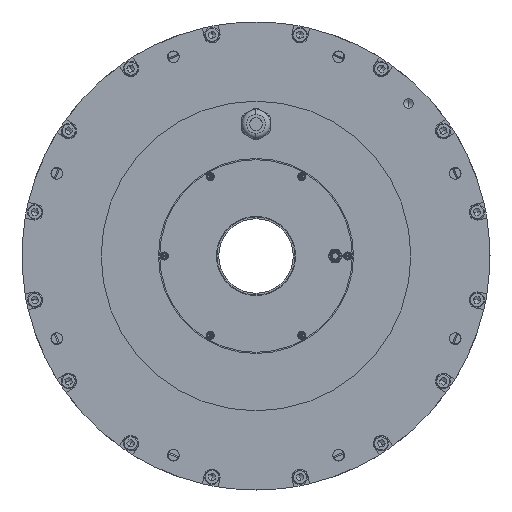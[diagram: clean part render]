
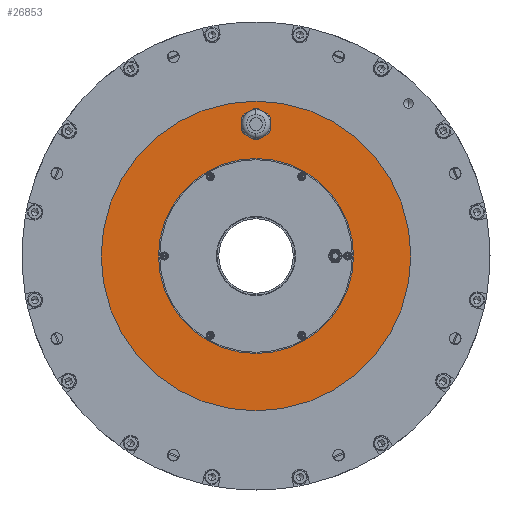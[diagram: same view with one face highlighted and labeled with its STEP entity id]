
A CAD part, front view. The second image highlights one B-rep face of the part: STEP entity #26853.
In plain terms, the highlighted planar face has unit normal (0, -1, 0).
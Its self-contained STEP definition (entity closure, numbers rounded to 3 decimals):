
#691 = CIRCLE ( 'NONE', #28960, 85. ) ;
#946 = ORIENTED_EDGE ( 'NONE', *, *, #10279, .T. ) ;
#2081 = DIRECTION ( 'NONE',  ( 0., 1., 0. ) ) ;
#2303 = DIRECTION ( 'NONE',  ( 0., 0., -1. ) ) ;
#2926 = DIRECTION ( 'NONE',  ( 0., -1., 0. ) ) ;
#3661 = CARTESIAN_POINT ( 'NONE',  ( 0., -4., 0. ) ) ;
#4100 = AXIS2_PLACEMENT_3D ( 'NONE', #7564, #16239, #17137 ) ;
#4314 = EDGE_CURVE ( 'NONE', #6994, #19963, #691, .T. ) ;
#4351 = PLANE ( 'NONE',  #24148 ) ;
#4665 = DIRECTION ( 'NONE',  ( 0., -1., 0. ) ) ;
#4954 = CIRCLE ( 'NONE', #18806, 135. ) ;
#6728 = CARTESIAN_POINT ( 'NONE',  ( 0., -4., 115. ) ) ;
#6994 = VERTEX_POINT ( 'NONE', #51057 ) ;
#7564 = CARTESIAN_POINT ( 'NONE',  ( 0., -4., 0. ) ) ;
#8101 = CIRCLE ( 'NONE', #4100, 135. ) ;
#8393 = DIRECTION ( 'NONE',  ( 0., -1., 0. ) ) ;
#9109 = EDGE_CURVE ( 'NONE', #19963, #6994, #60588, .T. ) ;
#9676 = DIRECTION ( 'NONE',  ( 0., 0., 1. ) ) ;
#10279 = EDGE_CURVE ( 'NONE', #22522, #14769, #8101, .T. ) ;
#13394 = EDGE_CURVE ( 'NONE', #34143, #44763, #60455, .T. ) ;
#14769 = VERTEX_POINT ( 'NONE', #51887 ) ;
#16239 = DIRECTION ( 'NONE',  ( 0., -1., 0. ) ) ;
#17137 = DIRECTION ( 'NONE',  ( 0., 0., -1. ) ) ;
#18500 = CARTESIAN_POINT ( 'NONE',  ( 0., -4., -135. ) ) ;
#18806 = AXIS2_PLACEMENT_3D ( 'NONE', #3661, #22587, #32193 ) ;
#19963 = VERTEX_POINT ( 'NONE', #48546 ) ;
#21016 = DIRECTION ( 'NONE',  ( 0., 0., 1. ) ) ;
#21029 = EDGE_CURVE ( 'NONE', #44763, #34143, #55865, .T. ) ;
#22522 = VERTEX_POINT ( 'NONE', #18500 ) ;
#22587 = DIRECTION ( 'NONE',  ( 0., -1., 0. ) ) ;
#24148 = AXIS2_PLACEMENT_3D ( 'NONE', #28248, #4665, #33817 ) ;
#25637 = DIRECTION ( 'NONE',  ( 0., 1., 0. ) ) ;
#26853 = ADVANCED_FACE ( 'NONE', ( #55595, #50939, #37254 ), #4351, .T. ) ;
#27621 = DIRECTION ( 'NONE',  ( 0., 0., -1. ) ) ;
#27885 = ORIENTED_EDGE ( 'NONE', *, *, #36464, .T. ) ;
#28248 = CARTESIAN_POINT ( 'NONE',  ( 0., -4., 0. ) ) ;
#28877 = EDGE_LOOP ( 'NONE', ( #27885, #946 ) ) ;
#28960 = AXIS2_PLACEMENT_3D ( 'NONE', #55685, #2926, #2303 ) ;
#29084 = AXIS2_PLACEMENT_3D ( 'NONE', #6728, #25637, #9676 ) ;
#29586 = CARTESIAN_POINT ( 'NONE',  ( 0., -4., 124.25 ) ) ;
#30417 = ORIENTED_EDGE ( 'NONE', *, *, #9109, .F. ) ;
#30658 = AXIS2_PLACEMENT_3D ( 'NONE', #44620, #2081, #21016 ) ;
#31269 = EDGE_LOOP ( 'NONE', ( #30417, #42496 ) ) ;
#32193 = DIRECTION ( 'NONE',  ( 0., 0., -1. ) ) ;
#33817 = DIRECTION ( 'NONE',  ( 0., 0., -1. ) ) ;
#34143 = VERTEX_POINT ( 'NONE', #29586 ) ;
#36464 = EDGE_CURVE ( 'NONE', #14769, #22522, #4954, .T. ) ;
#37254 = FACE_OUTER_BOUND ( 'NONE', #28877, .T. ) ;
#37789 = AXIS2_PLACEMENT_3D ( 'NONE', #54952, #8393, #27621 ) ;
#39580 = ORIENTED_EDGE ( 'NONE', *, *, #21029, .T. ) ;
#40286 = EDGE_LOOP ( 'NONE', ( #48262, #39580 ) ) ;
#42496 = ORIENTED_EDGE ( 'NONE', *, *, #4314, .F. ) ;
#44620 = CARTESIAN_POINT ( 'NONE',  ( 0., -4., 115. ) ) ;
#44763 = VERTEX_POINT ( 'NONE', #60100 ) ;
#48262 = ORIENTED_EDGE ( 'NONE', *, *, #13394, .T. ) ;
#48546 = CARTESIAN_POINT ( 'NONE',  ( 0., -4., -85. ) ) ;
#50939 = FACE_BOUND ( 'NONE', #40286, .T. ) ;
#51057 = CARTESIAN_POINT ( 'NONE',  ( 0., -4., 85. ) ) ;
#51887 = CARTESIAN_POINT ( 'NONE',  ( 0., -4., 135. ) ) ;
#54952 = CARTESIAN_POINT ( 'NONE',  ( 0., -4., 0. ) ) ;
#55595 = FACE_BOUND ( 'NONE', #31269, .T. ) ;
#55685 = CARTESIAN_POINT ( 'NONE',  ( 0., -4., 0. ) ) ;
#55865 = CIRCLE ( 'NONE', #29084, 9.25 ) ;
#60100 = CARTESIAN_POINT ( 'NONE',  ( 0., -4., 105.75 ) ) ;
#60455 = CIRCLE ( 'NONE', #30658, 9.25 ) ;
#60588 = CIRCLE ( 'NONE', #37789, 85. ) ;
